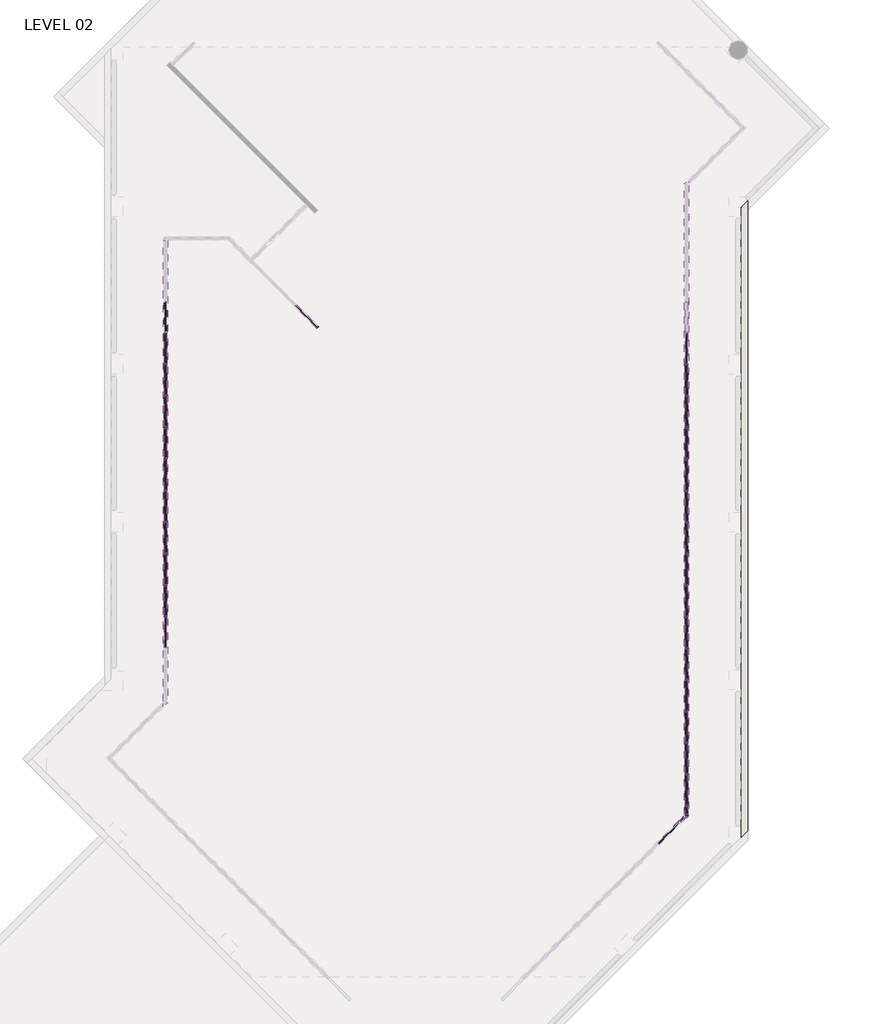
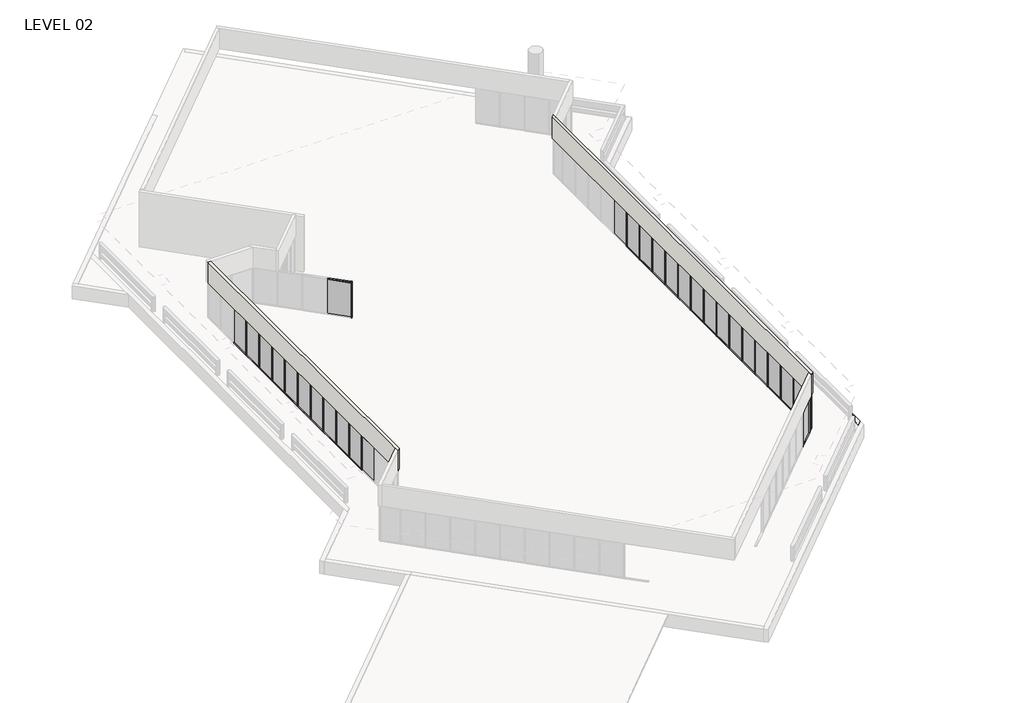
# One storey, part 11 of 19: 85 members, 30 plates, 3 walls.
"""IFC4 building model written with IfcOpenShell, lengths in millimetres."""

from ifc_helpers import new_model, si_unit, origin, place, context, project, spatial, faceted_brep, transform, mapped, element, save
from components import member_16770488, member_5247f267, member_e44af9ab, member_800970d4, member_1d3a199d, member_cca1f9e6, plate_67294edd, plate_8062c6fe, plate_53ca565f, plate_5a14c350

model = new_model("IFC4")

# Units and contexts
model_context = context("Model", 3, world=origin())
ifc_project = project(units=[si_unit("LENGTHUNIT", "METRE", prefix="MILLI")], contexts=[model_context])

# Site, building, storey
site = spatial("IfcSite", under=ifc_project)
building = spatial("IfcBuilding", under=site)
storey = spatial("IfcBuildingStorey", under=building, Name="LEVEL 02", Elevation=4140.2)

# Members
placement = place(None, origin())
member_shape = member_16770488(model_context)
element("IfcMember", 1, ObjectType="Rectangular Mullion : 2\" x 4.5\" rectangular", at=placement, inside=storey, context=model_context, shape_type="MappedRepresentation", body=[
    mapped(member_shape, transform((89445.0847164, 39591.9120859, 6731.0), x_axis=(0.0, 0.0, 1.0), y_axis=(-1.0, 0.0, 0.0), z_axis=(0.0, -1.0, 0.0))),
])
member_2_shape = member_5247f267(model_context)
element("IfcMember", 2, ObjectType="Rectangular Mullion : 2\" x 4.5\" rectangular", at=placement, inside=storey, context=model_context, shape_type="MappedRepresentation", body=[
    mapped(member_2_shape, transform((89445.0847164, 62877.3675885, 6731.0), x_axis=(0.0, 0.0, 1.0), y_axis=(-1.0, 0.0, 0.0), z_axis=(0.0, -1.0, 0.0))),
])
element("IfcMember", 3, ObjectType="Rectangular Mullion : 2\" x 4.5\" rectangular", at=placement, inside=storey, context=model_context, shape_type="MappedRepresentation", body=[
    mapped(member_2_shape, transform((89445.0847164, 61353.3675885, 6731.0), x_axis=(0.0, 0.0, 1.0), y_axis=(-1.0, 0.0, 0.0), z_axis=(0.0, -1.0, 0.0))),
])
element("IfcMember", 4, ObjectType="Rectangular Mullion : 2\" x 4.5\" rectangular", at=placement, inside=storey, context=model_context, shape_type="MappedRepresentation", body=[
    mapped(member_2_shape, transform((89445.0847164, 56781.3675885, 6731.0), x_axis=(0.0, 0.0, 1.0), y_axis=(-1.0, 0.0, 0.0), z_axis=(0.0, -1.0, 0.0))),
])
element("IfcMember", 5, ObjectType="Rectangular Mullion : 2\" x 4.5\" rectangular", at=placement, inside=storey, context=model_context, shape_type="MappedRepresentation", body=[
    mapped(member_2_shape, transform((89445.0847164, 55257.3675885, 6731.0), x_axis=(0.0, 0.0, 1.0), y_axis=(-1.0, 0.0, 0.0), z_axis=(0.0, -1.0, 0.0))),
])
element("IfcMember", 6, ObjectType="Rectangular Mullion : 2\" x 4.5\" rectangular", at=placement, inside=storey, context=model_context, shape_type="MappedRepresentation", body=[
    mapped(member_2_shape, transform((89445.0847164, 52209.3675885, 6731.0), x_axis=(0.0, 0.0, 1.0), y_axis=(-1.0, 0.0, 0.0), z_axis=(0.0, -1.0, 0.0))),
])
element("IfcMember", 7, ObjectType="Rectangular Mullion : 2\" x 4.5\" rectangular", at=placement, inside=storey, context=model_context, shape_type="MappedRepresentation", body=[
    mapped(member_2_shape, transform((89445.0847164, 49161.3675885, 6731.0), x_axis=(0.0, 0.0, 1.0), y_axis=(-1.0, 0.0, 0.0), z_axis=(0.0, -1.0, 0.0))),
])
element("IfcMember", 8, ObjectType="Rectangular Mullion : 2\" x 4.5\" rectangular", at=placement, inside=storey, context=model_context, shape_type="MappedRepresentation", body=[
    mapped(member_2_shape, transform((89445.0847164, 46113.3675885, 6731.0), x_axis=(0.0, 0.0, 1.0), y_axis=(-1.0, 0.0, 0.0), z_axis=(0.0, -1.0, 0.0))),
])
element("IfcMember", 9, ObjectType="Rectangular Mullion : 2\" x 4.5\" rectangular", at=placement, inside=storey, context=model_context, shape_type="MappedRepresentation", body=[
    mapped(member_2_shape, transform((89445.0847164, 41541.3675885, 6731.0), x_axis=(0.0, 0.0, 1.0), y_axis=(-1.0, 0.0, 0.0), z_axis=(0.0, -1.0, 0.0))),
])
element("IfcMember", 10, ObjectType="Rectangular Mullion : 2\" x 4.5\" rectangular", at=placement, inside=storey, context=model_context, shape_type="MappedRepresentation", body=[
    mapped(member_2_shape, transform((89445.0847164, 59829.3675885, 6731.0), x_axis=(0.0, 0.0, 1.0), y_axis=(-1.0, 0.0, 0.0), z_axis=(0.0, -1.0, 0.0))),
])
element("IfcMember", 11, ObjectType="Rectangular Mullion : 2\" x 4.5\" rectangular", at=placement, inside=storey, context=model_context, shape_type="MappedRepresentation", body=[
    mapped(member_2_shape, transform((89445.0847164, 58305.3675885, 6731.0), x_axis=(0.0, 0.0, 1.0), y_axis=(-1.0, 0.0, 0.0), z_axis=(0.0, -1.0, 0.0))),
])
element("IfcMember", 12, ObjectType="Rectangular Mullion : 2\" x 4.5\" rectangular", at=placement, inside=storey, context=model_context, shape_type="MappedRepresentation", body=[
    mapped(member_2_shape, transform((89445.0847164, 53733.3675885, 6731.0), x_axis=(0.0, 0.0, 1.0), y_axis=(-1.0, 0.0, 0.0), z_axis=(0.0, -1.0, 0.0))),
])
element("IfcMember", 13, ObjectType="Rectangular Mullion : 2\" x 4.5\" rectangular", at=placement, inside=storey, context=model_context, shape_type="MappedRepresentation", body=[
    mapped(member_2_shape, transform((89445.0847164, 50685.3675885, 6731.0), x_axis=(0.0, 0.0, 1.0), y_axis=(-1.0, 0.0, 0.0), z_axis=(0.0, -1.0, 0.0))),
])
element("IfcMember", 14, ObjectType="Rectangular Mullion : 2\" x 4.5\" rectangular", at=placement, inside=storey, context=model_context, shape_type="MappedRepresentation", body=[
    mapped(member_2_shape, transform((89445.0847164, 47637.3675885, 6731.0), x_axis=(0.0, 0.0, 1.0), y_axis=(-1.0, 0.0, 0.0), z_axis=(0.0, -1.0, 0.0))),
])
element("IfcMember", 15, ObjectType="Rectangular Mullion : 2\" x 4.5\" rectangular", at=placement, inside=storey, context=model_context, shape_type="MappedRepresentation", body=[
    mapped(member_2_shape, transform((89445.0847164, 44589.3675885, 6731.0), x_axis=(0.0, 0.0, 1.0), y_axis=(-1.0, 0.0, 0.0), z_axis=(0.0, -1.0, 0.0))),
])
element("IfcMember", 16, ObjectType="Rectangular Mullion : 2\" x 4.5\" rectangular", at=placement, inside=storey, context=model_context, shape_type="MappedRepresentation", body=[
    mapped(member_2_shape, transform((89445.0847164, 43065.3675885, 6731.0), x_axis=(0.0, 0.0, 1.0), y_axis=(-1.0, 0.0, 0.0), z_axis=(0.0, -1.0, 0.0))),
])
element("IfcMember", 17, ObjectType="Rectangular Mullion : 2\" x 4.5\" rectangular", at=placement, inside=storey, context=model_context, shape_type="MappedRepresentation", body=[
    mapped(member_2_shape, transform((89445.0847164, 40017.3675885, 6731.0), x_axis=(0.0, 0.0, 1.0), y_axis=(-1.0, 0.0, 0.0), z_axis=(0.0, -1.0, 0.0))),
])
element("IfcMember", 18, ObjectType="Rectangular Mullion : 2\" x 4.5\" rectangular", at=placement, inside=storey, context=model_context, shape_type="MappedRepresentation", body=[
    mapped(member_2_shape, transform((64254.6347164, 50634.5675885, 6731.0), x_axis=(0.0, 0.0, 1.0), y_axis=(1.0, 0.0, 0.0), z_axis=(0.0, 1.0, 0.0))),
])
element("IfcMember", 19, ObjectType="Rectangular Mullion : 2\" x 4.5\" rectangular", at=placement, inside=storey, context=model_context, shape_type="MappedRepresentation", body=[
    mapped(member_2_shape, transform((64254.6347164, 53682.5675885, 6731.0), x_axis=(0.0, 0.0, 1.0), y_axis=(1.0, 0.0, 0.0), z_axis=(0.0, 1.0, 0.0))),
])
element("IfcMember", 20, ObjectType="Rectangular Mullion : 2\" x 4.5\" rectangular", at=placement, inside=storey, context=model_context, shape_type="MappedRepresentation", body=[
    mapped(member_2_shape, transform((64254.6347164, 55206.5675885, 6731.0), x_axis=(0.0, 0.0, 1.0), y_axis=(1.0, 0.0, 0.0), z_axis=(0.0, 1.0, 0.0))),
])
element("IfcMember", 21, ObjectType="Rectangular Mullion : 2\" x 4.5\" rectangular", at=placement, inside=storey, context=model_context, shape_type="MappedRepresentation", body=[
    mapped(member_2_shape, transform((64254.6347164, 58254.5675885, 6731.0), x_axis=(0.0, 0.0, 1.0), y_axis=(1.0, 0.0, 0.0), z_axis=(0.0, 1.0, 0.0))),
])
element("IfcMember", 22, ObjectType="Rectangular Mullion : 2\" x 4.5\" rectangular", at=placement, inside=storey, context=model_context, shape_type="MappedRepresentation", body=[
    mapped(member_2_shape, transform((64254.6347164, 61302.5675885, 6731.0), x_axis=(0.0, 0.0, 1.0), y_axis=(1.0, 0.0, 0.0), z_axis=(0.0, 1.0, 0.0))),
])
element("IfcMember", 23, ObjectType="Rectangular Mullion : 2\" x 4.5\" rectangular", at=placement, inside=storey, context=model_context, shape_type="MappedRepresentation", body=[
    mapped(member_2_shape, transform((64254.6347164, 62826.5675885, 6731.0), x_axis=(0.0, 0.0, 1.0), y_axis=(1.0, 0.0, 0.0), z_axis=(0.0, 1.0, 0.0))),
])
element("IfcMember", 24, ObjectType="Rectangular Mullion : 2\" x 4.5\" rectangular", at=placement, inside=storey, context=model_context, shape_type="MappedRepresentation", body=[
    mapped(member_2_shape, transform((64254.6347164, 52158.5675885, 6731.0), x_axis=(0.0, 0.0, 1.0), y_axis=(1.0, 0.0, 0.0), z_axis=(0.0, 1.0, 0.0))),
])
element("IfcMember", 25, ObjectType="Rectangular Mullion : 2\" x 4.5\" rectangular", at=placement, inside=storey, context=model_context, shape_type="MappedRepresentation", body=[
    mapped(member_2_shape, transform((64254.6347164, 49110.5675885, 6731.0), x_axis=(0.0, 0.0, 1.0), y_axis=(1.0, 0.0, 0.0), z_axis=(0.0, 1.0, 0.0))),
])
element("IfcMember", 26, ObjectType="Rectangular Mullion : 2\" x 4.5\" rectangular", at=placement, inside=storey, context=model_context, shape_type="MappedRepresentation", body=[
    mapped(member_2_shape, transform((64254.6347164, 59778.5675885, 6731.0), x_axis=(0.0, 0.0, 1.0), y_axis=(1.0, 0.0, 0.0), z_axis=(0.0, 1.0, 0.0))),
])
element("IfcMember", 27, ObjectType="Rectangular Mullion : 2\" x 4.5\" rectangular", at=placement, inside=storey, context=model_context, shape_type="MappedRepresentation", body=[
    mapped(member_2_shape, transform((64254.6347164, 56730.5675885, 6731.0), x_axis=(0.0, 0.0, 1.0), y_axis=(1.0, 0.0, 0.0), z_axis=(0.0, 1.0, 0.0))),
])
element("IfcMember", 28, ObjectType="Rectangular Mullion : 2\" x 4.5\" rectangular", at=placement, inside=storey, context=model_context, shape_type="MappedRepresentation", body=[
    mapped(member_2_shape, transform((89445.0847164, 61302.5675885, 4140.2), x_axis=(0.0, 0.0, -1.0), y_axis=(-1.0, 0.0, 0.0), z_axis=(0.0, 1.0, 0.0))),
])
element("IfcMember", 29, ObjectType="Rectangular Mullion : 2\" x 4.5\" rectangular", at=placement, inside=storey, context=model_context, shape_type="MappedRepresentation", body=[
    mapped(member_2_shape, transform((89445.0847164, 56730.5675885, 4140.2), x_axis=(0.0, 0.0, -1.0), y_axis=(-1.0, 0.0, 0.0), z_axis=(0.0, 1.0, 0.0))),
])
element("IfcMember", 30, ObjectType="Rectangular Mullion : 2\" x 4.5\" rectangular", at=placement, inside=storey, context=model_context, shape_type="MappedRepresentation", body=[
    mapped(member_2_shape, transform((89445.0847164, 55206.5675885, 4140.2), x_axis=(0.0, 0.0, -1.0), y_axis=(-1.0, 0.0, 0.0), z_axis=(0.0, 1.0, 0.0))),
])
element("IfcMember", 31, ObjectType="Rectangular Mullion : 2\" x 4.5\" rectangular", at=placement, inside=storey, context=model_context, shape_type="MappedRepresentation", body=[
    mapped(member_2_shape, transform((89445.0847164, 52158.5675885, 4140.2), x_axis=(0.0, 0.0, -1.0), y_axis=(-1.0, 0.0, 0.0), z_axis=(0.0, 1.0, 0.0))),
])
element("IfcMember", 32, ObjectType="Rectangular Mullion : 2\" x 4.5\" rectangular", at=placement, inside=storey, context=model_context, shape_type="MappedRepresentation", body=[
    mapped(member_2_shape, transform((89445.0847164, 49110.5675885, 4140.2), x_axis=(0.0, 0.0, -1.0), y_axis=(-1.0, 0.0, 0.0), z_axis=(0.0, 1.0, 0.0))),
])
element("IfcMember", 33, ObjectType="Rectangular Mullion : 2\" x 4.5\" rectangular", at=placement, inside=storey, context=model_context, shape_type="MappedRepresentation", body=[
    mapped(member_2_shape, transform((89445.0847164, 46062.5675885, 4140.2), x_axis=(0.0, 0.0, -1.0), y_axis=(-1.0, 0.0, 0.0), z_axis=(0.0, 1.0, 0.0))),
])
element("IfcMember", 34, ObjectType="Rectangular Mullion : 2\" x 4.5\" rectangular", at=placement, inside=storey, context=model_context, shape_type="MappedRepresentation", body=[
    mapped(member_2_shape, transform((89445.0847164, 41490.5675885, 4140.2), x_axis=(0.0, 0.0, -1.0), y_axis=(-1.0, 0.0, 0.0), z_axis=(0.0, 1.0, 0.0))),
])
element("IfcMember", 35, ObjectType="Rectangular Mullion : 2\" x 4.5\" rectangular", at=placement, inside=storey, context=model_context, shape_type="MappedRepresentation", body=[
    mapped(member_2_shape, transform((89445.0847164, 59778.5675885, 4140.2), x_axis=(0.0, 0.0, -1.0), y_axis=(-1.0, 0.0, 0.0), z_axis=(0.0, 1.0, 0.0))),
])
element("IfcMember", 36, ObjectType="Rectangular Mullion : 2\" x 4.5\" rectangular", at=placement, inside=storey, context=model_context, shape_type="MappedRepresentation", body=[
    mapped(member_2_shape, transform((89445.0847164, 58254.5675885, 4140.2), x_axis=(0.0, 0.0, -1.0), y_axis=(-1.0, 0.0, 0.0), z_axis=(0.0, 1.0, 0.0))),
])
element("IfcMember", 37, ObjectType="Rectangular Mullion : 2\" x 4.5\" rectangular", at=placement, inside=storey, context=model_context, shape_type="MappedRepresentation", body=[
    mapped(member_2_shape, transform((89445.0847164, 53682.5675885, 4140.2), x_axis=(0.0, 0.0, -1.0), y_axis=(-1.0, 0.0, 0.0), z_axis=(0.0, 1.0, 0.0))),
])
element("IfcMember", 38, ObjectType="Rectangular Mullion : 2\" x 4.5\" rectangular", at=placement, inside=storey, context=model_context, shape_type="MappedRepresentation", body=[
    mapped(member_2_shape, transform((89445.0847164, 50634.5675885, 4140.2), x_axis=(0.0, 0.0, -1.0), y_axis=(-1.0, 0.0, 0.0), z_axis=(0.0, 1.0, 0.0))),
])
element("IfcMember", 39, ObjectType="Rectangular Mullion : 2\" x 4.5\" rectangular", at=placement, inside=storey, context=model_context, shape_type="MappedRepresentation", body=[
    mapped(member_2_shape, transform((89445.0847164, 47586.5675885, 4140.2), x_axis=(0.0, 0.0, -1.0), y_axis=(-1.0, 0.0, 0.0), z_axis=(0.0, 1.0, 0.0))),
])
element("IfcMember", 40, ObjectType="Rectangular Mullion : 2\" x 4.5\" rectangular", at=placement, inside=storey, context=model_context, shape_type="MappedRepresentation", body=[
    mapped(member_2_shape, transform((89445.0847164, 44538.5675885, 4140.2), x_axis=(0.0, 0.0, -1.0), y_axis=(-1.0, 0.0, 0.0), z_axis=(0.0, 1.0, 0.0))),
])
element("IfcMember", 41, ObjectType="Rectangular Mullion : 2\" x 4.5\" rectangular", at=placement, inside=storey, context=model_context, shape_type="MappedRepresentation", body=[
    mapped(member_2_shape, transform((89445.0847164, 43014.5675885, 4140.2), x_axis=(0.0, 0.0, -1.0), y_axis=(-1.0, 0.0, 0.0), z_axis=(0.0, 1.0, 0.0))),
])
element("IfcMember", 42, ObjectType="Rectangular Mullion : 2\" x 4.5\" rectangular", at=placement, inside=storey, context=model_context, shape_type="MappedRepresentation", body=[
    mapped(member_2_shape, transform((89108.4998936, 39204.5272631, 4140.2), x_axis=(0.0, 0.0, -1.0), y_axis=(-0.7071067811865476, 0.7071067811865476, 0.0), z_axis=(0.7071067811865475, 0.7071067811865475, 0.0))),
])
element("IfcMember", 43, ObjectType="Rectangular Mullion : 2\" x 4.5\" rectangular", at=placement, inside=storey, context=model_context, shape_type="MappedRepresentation", body=[
    mapped(member_2_shape, transform((64254.6347164, 50685.3675885, 4140.2), x_axis=(0.0, 0.0, -1.0), y_axis=(1.0, 0.0, 0.0), z_axis=(0.0, -1.0, 0.0))),
])
element("IfcMember", 44, ObjectType="Rectangular Mullion : 2\" x 4.5\" rectangular", at=placement, inside=storey, context=model_context, shape_type="MappedRepresentation", body=[
    mapped(member_2_shape, transform((64254.6347164, 53733.3675885, 4140.2), x_axis=(0.0, 0.0, -1.0), y_axis=(1.0, 0.0, 0.0), z_axis=(0.0, -1.0, 0.0))),
])
element("IfcMember", 45, ObjectType="Rectangular Mullion : 2\" x 4.5\" rectangular", at=placement, inside=storey, context=model_context, shape_type="MappedRepresentation", body=[
    mapped(member_2_shape, transform((64254.6347164, 55257.3675885, 4140.2), x_axis=(0.0, 0.0, -1.0), y_axis=(1.0, 0.0, 0.0), z_axis=(0.0, -1.0, 0.0))),
])
element("IfcMember", 46, ObjectType="Rectangular Mullion : 2\" x 4.5\" rectangular", at=placement, inside=storey, context=model_context, shape_type="MappedRepresentation", body=[
    mapped(member_2_shape, transform((64254.6347164, 58305.3675885, 4140.2), x_axis=(0.0, 0.0, -1.0), y_axis=(1.0, 0.0, 0.0), z_axis=(0.0, -1.0, 0.0))),
])
element("IfcMember", 47, ObjectType="Rectangular Mullion : 2\" x 4.5\" rectangular", at=placement, inside=storey, context=model_context, shape_type="MappedRepresentation", body=[
    mapped(member_2_shape, transform((64254.6347164, 61353.3675885, 4140.2), x_axis=(0.0, 0.0, -1.0), y_axis=(1.0, 0.0, 0.0), z_axis=(0.0, -1.0, 0.0))),
])
element("IfcMember", 48, ObjectType="Rectangular Mullion : 2\" x 4.5\" rectangular", at=placement, inside=storey, context=model_context, shape_type="MappedRepresentation", body=[
    mapped(member_2_shape, transform((64254.6347164, 62877.3675885, 4140.2), x_axis=(0.0, 0.0, -1.0), y_axis=(1.0, 0.0, 0.0), z_axis=(0.0, -1.0, 0.0))),
])
element("IfcMember", 49, ObjectType="Rectangular Mullion : 2\" x 4.5\" rectangular", at=placement, inside=storey, context=model_context, shape_type="MappedRepresentation", body=[
    mapped(member_2_shape, transform((64254.6347164, 52209.3675885, 4140.2), x_axis=(0.0, 0.0, -1.0), y_axis=(1.0, 0.0, 0.0), z_axis=(0.0, -1.0, 0.0))),
])
element("IfcMember", 50, ObjectType="Rectangular Mullion : 2\" x 4.5\" rectangular", at=placement, inside=storey, context=model_context, shape_type="MappedRepresentation", body=[
    mapped(member_2_shape, transform((64254.6347164, 49161.3675885, 4140.2), x_axis=(0.0, 0.0, -1.0), y_axis=(1.0, 0.0, 0.0), z_axis=(0.0, -1.0, 0.0))),
])
element("IfcMember", 51, ObjectType="Rectangular Mullion : 2\" x 4.5\" rectangular", at=placement, inside=storey, context=model_context, shape_type="MappedRepresentation", body=[
    mapped(member_2_shape, transform((64254.6347164, 59829.3675885, 4140.2), x_axis=(0.0, 0.0, -1.0), y_axis=(1.0, 0.0, 0.0), z_axis=(0.0, -1.0, 0.0))),
])
element("IfcMember", 52, ObjectType="Rectangular Mullion : 2\" x 4.5\" rectangular", at=placement, inside=storey, context=model_context, shape_type="MappedRepresentation", body=[
    mapped(member_2_shape, transform((64254.6347164, 56781.3675885, 4140.2), x_axis=(0.0, 0.0, -1.0), y_axis=(1.0, 0.0, 0.0), z_axis=(0.0, -1.0, 0.0))),
])
member_3_shape = member_e44af9ab(model_context)
element("IfcMember", 53, ObjectType="Rectangular Mullion : 2\" x 4.5\" rectangular", at=placement, inside=storey, context=model_context, shape_type="MappedRepresentation", body=[
    mapped(member_3_shape, transform((89445.0847164, 61327.9675885, 4140.2), x_axis=(0.0, -1.0, 0.0), y_axis=(-1.0, 0.0, 0.0), z_axis=(0.0, 0.0, -1.0))),
])
element("IfcMember", 54, ObjectType="Rectangular Mullion : 2\" x 4.5\" rectangular", at=placement, inside=storey, context=model_context, shape_type="MappedRepresentation", body=[
    mapped(member_3_shape, transform((89445.0847164, 56755.9675885, 4140.2), x_axis=(0.0, -1.0, 0.0), y_axis=(-1.0, 0.0, 0.0), z_axis=(0.0, 0.0, -1.0))),
])
element("IfcMember", 55, ObjectType="Rectangular Mullion : 2\" x 4.5\" rectangular", at=placement, inside=storey, context=model_context, shape_type="MappedRepresentation", body=[
    mapped(member_3_shape, transform((89445.0847164, 55231.9675885, 4140.2), x_axis=(0.0, -1.0, 0.0), y_axis=(-1.0, 0.0, 0.0), z_axis=(0.0, 0.0, -1.0))),
])
element("IfcMember", 56, ObjectType="Rectangular Mullion : 2\" x 4.5\" rectangular", at=placement, inside=storey, context=model_context, shape_type="MappedRepresentation", body=[
    mapped(member_3_shape, transform((89445.0847164, 52183.9675885, 4140.2), x_axis=(0.0, -1.0, 0.0), y_axis=(-1.0, 0.0, 0.0), z_axis=(0.0, 0.0, -1.0))),
])
element("IfcMember", 57, ObjectType="Rectangular Mullion : 2\" x 4.5\" rectangular", at=placement, inside=storey, context=model_context, shape_type="MappedRepresentation", body=[
    mapped(member_3_shape, transform((89445.0847164, 49135.9675885, 4140.2), x_axis=(0.0, -1.0, 0.0), y_axis=(-1.0, 0.0, 0.0), z_axis=(0.0, 0.0, -1.0))),
])
element("IfcMember", 58, ObjectType="Rectangular Mullion : 2\" x 4.5\" rectangular", at=placement, inside=storey, context=model_context, shape_type="MappedRepresentation", body=[
    mapped(member_3_shape, transform((89445.0847164, 46087.9675885, 4140.2), x_axis=(0.0, -1.0, 0.0), y_axis=(-1.0, 0.0, 0.0), z_axis=(0.0, 0.0, -1.0))),
])
element("IfcMember", 59, ObjectType="Rectangular Mullion : 2\" x 4.5\" rectangular", at=placement, inside=storey, context=model_context, shape_type="MappedRepresentation", body=[
    mapped(member_3_shape, transform((89445.0847164, 44563.9675885, 4140.2), x_axis=(0.0, -1.0, 0.0), y_axis=(-1.0, 0.0, 0.0), z_axis=(0.0, 0.0, -1.0))),
])
element("IfcMember", 60, ObjectType="Rectangular Mullion : 2\" x 4.5\" rectangular", at=placement, inside=storey, context=model_context, shape_type="MappedRepresentation", body=[
    mapped(member_3_shape, transform((89445.0847164, 41515.9675885, 4140.2), x_axis=(0.0, -1.0, 0.0), y_axis=(-1.0, 0.0, 0.0), z_axis=(0.0, 0.0, -1.0))),
])
element("IfcMember", 61, ObjectType="Rectangular Mullion : 2\" x 4.5\" rectangular", at=placement, inside=storey, context=model_context, shape_type="MappedRepresentation", body=[
    mapped(member_3_shape, transform((89445.0847164, 59803.9675885, 4140.2), x_axis=(0.0, -1.0, 0.0), y_axis=(-1.0, 0.0, 0.0), z_axis=(0.0, 0.0, -1.0))),
])
element("IfcMember", 62, ObjectType="Rectangular Mullion : 2\" x 4.5\" rectangular", at=placement, inside=storey, context=model_context, shape_type="MappedRepresentation", body=[
    mapped(member_3_shape, transform((89445.0847164, 58279.9675885, 4140.2), x_axis=(0.0, -1.0, 0.0), y_axis=(-1.0, 0.0, 0.0), z_axis=(0.0, 0.0, -1.0))),
])
element("IfcMember", 63, ObjectType="Rectangular Mullion : 2\" x 4.5\" rectangular", at=placement, inside=storey, context=model_context, shape_type="MappedRepresentation", body=[
    mapped(member_3_shape, transform((89445.0847164, 53707.9675885, 4140.2), x_axis=(0.0, -1.0, 0.0), y_axis=(-1.0, 0.0, 0.0), z_axis=(0.0, 0.0, -1.0))),
])
element("IfcMember", 64, ObjectType="Rectangular Mullion : 2\" x 4.5\" rectangular", at=placement, inside=storey, context=model_context, shape_type="MappedRepresentation", body=[
    mapped(member_3_shape, transform((89445.0847164, 50659.9675885, 4140.2), x_axis=(0.0, -1.0, 0.0), y_axis=(-1.0, 0.0, 0.0), z_axis=(0.0, 0.0, -1.0))),
])
element("IfcMember", 65, ObjectType="Rectangular Mullion : 2\" x 4.5\" rectangular", at=placement, inside=storey, context=model_context, shape_type="MappedRepresentation", body=[
    mapped(member_3_shape, transform((89445.0847164, 47611.9675885, 4140.2), x_axis=(0.0, -1.0, 0.0), y_axis=(-1.0, 0.0, 0.0), z_axis=(0.0, 0.0, -1.0))),
])
element("IfcMember", 66, ObjectType="Rectangular Mullion : 2\" x 4.5\" rectangular", at=placement, inside=storey, context=model_context, shape_type="MappedRepresentation", body=[
    mapped(member_3_shape, transform((89445.0847164, 43039.9675885, 4140.2), x_axis=(0.0, -1.0, 0.0), y_axis=(-1.0, 0.0, 0.0), z_axis=(0.0, 0.0, -1.0))),
])
element("IfcMember", 67, ObjectType="Rectangular Mullion : 2\" x 4.5\" rectangular", at=placement, inside=storey, context=model_context, shape_type="MappedRepresentation", body=[
    mapped(member_3_shape, transform((89445.0847164, 39991.9675885, 4140.2), x_axis=(0.0, -1.0, 0.0), y_axis=(-1.0, 0.0, 0.0), z_axis=(0.0, 0.0, -1.0))),
])
element("IfcMember", 68, ObjectType="Rectangular Mullion : 2\" x 4.5\" rectangular", at=placement, inside=storey, context=model_context, shape_type="MappedRepresentation", body=[
    mapped(member_3_shape, transform((89126.4604058, 39222.4877753, 4140.2), x_axis=(-0.7071067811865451, -0.7071067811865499, 0.0), y_axis=(-0.7071067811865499, 0.7071067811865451, 0.0), z_axis=(0.0, 0.0, -1.0))),
])
element("IfcMember", 69, ObjectType="Rectangular Mullion : 2\" x 4.5\" rectangular", at=placement, inside=storey, context=model_context, shape_type="MappedRepresentation", body=[
    mapped(member_3_shape, transform((64254.6347164, 50659.9675885, 4140.2), x_axis=(0.0, 1.0, 0.0), y_axis=(1.0, 0.0, 0.0), z_axis=(0.0, 0.0, -1.0))),
])
element("IfcMember", 70, ObjectType="Rectangular Mullion : 2\" x 4.5\" rectangular", at=placement, inside=storey, context=model_context, shape_type="MappedRepresentation", body=[
    mapped(member_3_shape, transform((64254.6347164, 53707.9675885, 4140.2), x_axis=(0.0, 1.0, 0.0), y_axis=(1.0, 0.0, 0.0), z_axis=(0.0, 0.0, -1.0))),
])
element("IfcMember", 71, ObjectType="Rectangular Mullion : 2\" x 4.5\" rectangular", at=placement, inside=storey, context=model_context, shape_type="MappedRepresentation", body=[
    mapped(member_3_shape, transform((64254.6347164, 55231.9675885, 4140.2), x_axis=(0.0, 1.0, 0.0), y_axis=(1.0, 0.0, 0.0), z_axis=(0.0, 0.0, -1.0))),
])
element("IfcMember", 72, ObjectType="Rectangular Mullion : 2\" x 4.5\" rectangular", at=placement, inside=storey, context=model_context, shape_type="MappedRepresentation", body=[
    mapped(member_3_shape, transform((64254.6347164, 58279.9675885, 4140.2), x_axis=(0.0, 1.0, 0.0), y_axis=(1.0, 0.0, 0.0), z_axis=(0.0, 0.0, -1.0))),
])
element("IfcMember", 73, ObjectType="Rectangular Mullion : 2\" x 4.5\" rectangular", at=placement, inside=storey, context=model_context, shape_type="MappedRepresentation", body=[
    mapped(member_3_shape, transform((64254.6347164, 61327.9675885, 4140.2), x_axis=(0.0, 1.0, 0.0), y_axis=(1.0, 0.0, 0.0), z_axis=(0.0, 0.0, -1.0))),
])
element("IfcMember", 74, ObjectType="Rectangular Mullion : 2\" x 4.5\" rectangular", at=placement, inside=storey, context=model_context, shape_type="MappedRepresentation", body=[
    mapped(member_3_shape, transform((64254.6347164, 62851.9675885, 4140.2), x_axis=(0.0, 1.0, 0.0), y_axis=(1.0, 0.0, 0.0), z_axis=(0.0, 0.0, -1.0))),
])
element("IfcMember", 75, ObjectType="Rectangular Mullion : 2\" x 4.5\" rectangular", at=placement, inside=storey, context=model_context, shape_type="MappedRepresentation", body=[
    mapped(member_3_shape, transform((64254.6347164, 52183.9675885, 4140.2), x_axis=(0.0, 1.0, 0.0), y_axis=(1.0, 0.0, 0.0), z_axis=(0.0, 0.0, -1.0))),
])
element("IfcMember", 76, ObjectType="Rectangular Mullion : 2\" x 4.5\" rectangular", at=placement, inside=storey, context=model_context, shape_type="MappedRepresentation", body=[
    mapped(member_3_shape, transform((64254.6347164, 49135.9675885, 4140.2), x_axis=(0.0, 1.0, 0.0), y_axis=(1.0, 0.0, 0.0), z_axis=(0.0, 0.0, -1.0))),
])
element("IfcMember", 77, ObjectType="Rectangular Mullion : 2\" x 4.5\" rectangular", at=placement, inside=storey, context=model_context, shape_type="MappedRepresentation", body=[
    mapped(member_3_shape, transform((64254.6347164, 59803.9675885, 4140.2), x_axis=(0.0, 1.0, 0.0), y_axis=(1.0, 0.0, 0.0), z_axis=(0.0, 0.0, -1.0))),
])
element("IfcMember", 78, ObjectType="Rectangular Mullion : 2\" x 4.5\" rectangular", at=placement, inside=storey, context=model_context, shape_type="MappedRepresentation", body=[
    mapped(member_3_shape, transform((64254.6347164, 56755.9675885, 4140.2), x_axis=(0.0, 1.0, 0.0), y_axis=(1.0, 0.0, 0.0), z_axis=(0.0, 0.0, -1.0))),
])
element("IfcMember", 79, ObjectType="Rectangular Mullion : 2\" x 4.5\" rectangular", at=placement, inside=storey, context=model_context, shape_type="MappedRepresentation", body=[
    mapped(member_shape, transform((89445.0847164, 39966.5675885, 4140.2), x_axis=(0.0, 0.0, -1.0), y_axis=(-1.0, 0.0, 0.0), z_axis=(0.0, 1.0, 0.0))),
])
member_4_shape = member_800970d4(model_context)
element("IfcMember", 80, ObjectType="Rectangular Mullion : 2\" x 4.5\" rectangular", at=placement, inside=storey, context=model_context, shape_type="MappedRepresentation", body=[
    mapped(member_4_shape, transform((89445.0847164, 39541.1120859, 4140.2), x_axis=(0.0, -1.0, 0.0), y_axis=(-1.0, 0.0, 0.0), z_axis=(0.0, 0.0, -1.0))),
])
element("IfcMember", 81, ObjectType="Rectangular Mullion : 2\" x 4.5\" rectangular", at=placement, inside=storey, context=model_context, shape_type="MappedRepresentation", body=[
    mapped(member_4_shape, transform((71613.1576545, 63113.4446504, 4140.2), x_axis=(0.7071067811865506, -0.7071067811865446, 0.0), y_axis=(-0.7071067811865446, -0.7071067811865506, 0.0), z_axis=(0.0, 0.0, -1.0))),
])
element("IfcMember", 82, ObjectType="Rectangular Mullion : 2\" x 4.5\" rectangular", at=placement, inside=storey, context=model_context, shape_type="MappedRepresentation", body=[
    mapped(member_4_shape, transform((89445.0847164, 39541.1120859, 6731.0), x_axis=(0.7071067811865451, 0.7071067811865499, 0.0), y_axis=(-0.7071067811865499, 0.7071067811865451, 0.0), z_axis=(0.0, 0.0, 1.0))),
])
member_5_shape = member_1d3a199d(model_context)
element("IfcMember", 83, ObjectType="Rectangular Mullion : 2\" x 4.5\" rectangular", at=placement, inside=storey, context=model_context, shape_type="MappedRepresentation", body=[
    mapped(member_5_shape, transform((89409.1636919, 39505.1910614, 4140.2), x_axis=(0.0, 0.0, -1.0), y_axis=(-0.7071067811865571, 0.7071067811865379, 0.0), z_axis=(0.7071067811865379, 0.7071067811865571, 0.0))),
])
element("IfcMember", 84, ObjectType="Rectangular Mullion : 2\" x 4.5\" rectangular", at=placement, inside=storey, context=model_context, shape_type="MappedRepresentation", body=[
    mapped(member_5_shape, transform((89144.4209181, 39240.4482876, 6731.0), x_axis=(0.0, 0.0, 1.0), y_axis=(-0.7071067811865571, 0.7071067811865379, 0.0), z_axis=(-0.7071067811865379, -0.7071067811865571, 0.0))),
])
member_6_shape = member_cca1f9e6(model_context)
element("IfcMember", 85, ObjectType="Rectangular Mullion : 2\" x 4.5\" rectangular", at=placement, inside=storey, context=model_context, shape_type="MappedRepresentation", body=[
    mapped(member_6_shape, transform((71577.23663, 63149.3656749, 6731.0), x_axis=(0.0, 0.0, 1.0), y_axis=(-0.7071067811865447, -0.7071067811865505, 0.0), z_axis=(0.7071067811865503, -0.7071067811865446, 0.0))),
])

# Plates
plate_shape = plate_67294edd(model_context)
element("IfcPlate", 86, ObjectType="System Panel : 1/4\" Glass", at=placement, inside=storey, context=model_context, shape_type="MappedRepresentation", body=[
    mapped(plate_shape, transform((89445.0847164, 62089.9675885, 4191.0), x_axis=(0.0, -1.0, 0.0), y_axis=(1.0, 0.0, 0.0), z_axis=(0.0, 0.0, 1.0))),
])
element("IfcPlate", 87, ObjectType="System Panel : 1/4\" Glass", at=placement, inside=storey, context=model_context, shape_type="MappedRepresentation", body=[
    mapped(plate_shape, transform((89445.0847164, 60565.9675885, 4191.0), x_axis=(0.0, -1.0, 0.0), y_axis=(1.0, 0.0, 0.0), z_axis=(0.0, 0.0, 1.0))),
])
element("IfcPlate", 88, ObjectType="System Panel : 1/4\" Glass", at=placement, inside=storey, context=model_context, shape_type="MappedRepresentation", body=[
    mapped(plate_shape, transform((89445.0847164, 55993.9675885, 4191.0), x_axis=(0.0, -1.0, 0.0), y_axis=(1.0, 0.0, 0.0), z_axis=(0.0, 0.0, 1.0))),
])
element("IfcPlate", 89, ObjectType="System Panel : 1/4\" Glass", at=placement, inside=storey, context=model_context, shape_type="MappedRepresentation", body=[
    mapped(plate_shape, transform((89445.0847164, 54469.9675885, 4191.0), x_axis=(0.0, -1.0, 0.0), y_axis=(1.0, 0.0, 0.0), z_axis=(0.0, 0.0, 1.0))),
])
element("IfcPlate", 90, ObjectType="System Panel : 1/4\" Glass", at=placement, inside=storey, context=model_context, shape_type="MappedRepresentation", body=[
    mapped(plate_shape, transform((89445.0847164, 51421.9675885, 4191.0), x_axis=(0.0, -1.0, 0.0), y_axis=(1.0, 0.0, 0.0), z_axis=(0.0, 0.0, 1.0))),
])
element("IfcPlate", 91, ObjectType="System Panel : 1/4\" Glass", at=placement, inside=storey, context=model_context, shape_type="MappedRepresentation", body=[
    mapped(plate_shape, transform((89445.0847164, 48373.9675885, 4191.0), x_axis=(0.0, -1.0, 0.0), y_axis=(1.0, 0.0, 0.0), z_axis=(0.0, 0.0, 1.0))),
])
element("IfcPlate", 92, ObjectType="System Panel : 1/4\" Glass", at=placement, inside=storey, context=model_context, shape_type="MappedRepresentation", body=[
    mapped(plate_shape, transform((89445.0847164, 45325.9675885, 4191.0), x_axis=(0.0, -1.0, 0.0), y_axis=(1.0, 0.0, 0.0), z_axis=(0.0, 0.0, 1.0))),
])
element("IfcPlate", 93, ObjectType="System Panel : 1/4\" Glass", at=placement, inside=storey, context=model_context, shape_type="MappedRepresentation", body=[
    mapped(plate_shape, transform((89445.0847164, 43801.9675885, 4191.0), x_axis=(0.0, -1.0, 0.0), y_axis=(1.0, 0.0, 0.0), z_axis=(0.0, 0.0, 1.0))),
])
element("IfcPlate", 94, ObjectType="System Panel : 1/4\" Glass", at=placement, inside=storey, context=model_context, shape_type="MappedRepresentation", body=[
    mapped(plate_shape, transform((89445.0847164, 40753.9675885, 4191.0), x_axis=(0.0, -1.0, 0.0), y_axis=(1.0, 0.0, 0.0), z_axis=(0.0, 0.0, 1.0))),
])
element("IfcPlate", 95, ObjectType="System Panel : 1/4\" Glass", at=placement, inside=storey, context=model_context, shape_type="MappedRepresentation", body=[
    mapped(plate_shape, transform((89445.0847164, 59041.9675885, 4191.0), x_axis=(0.0, -1.0, 0.0), y_axis=(1.0, 0.0, 0.0), z_axis=(0.0, 0.0, 1.0))),
])
element("IfcPlate", 96, ObjectType="System Panel : 1/4\" Glass", at=placement, inside=storey, context=model_context, shape_type="MappedRepresentation", body=[
    mapped(plate_shape, transform((89445.0847164, 57517.9675885, 4191.0), x_axis=(0.0, -1.0, 0.0), y_axis=(1.0, 0.0, 0.0), z_axis=(0.0, 0.0, 1.0))),
])
element("IfcPlate", 97, ObjectType="System Panel : 1/4\" Glass", at=placement, inside=storey, context=model_context, shape_type="MappedRepresentation", body=[
    mapped(plate_shape, transform((89445.0847164, 52945.9675885, 4191.0), x_axis=(0.0, -1.0, 0.0), y_axis=(1.0, 0.0, 0.0), z_axis=(0.0, 0.0, 1.0))),
])
element("IfcPlate", 98, ObjectType="System Panel : 1/4\" Glass", at=placement, inside=storey, context=model_context, shape_type="MappedRepresentation", body=[
    mapped(plate_shape, transform((89445.0847164, 49897.9675885, 4191.0), x_axis=(0.0, -1.0, 0.0), y_axis=(1.0, 0.0, 0.0), z_axis=(0.0, 0.0, 1.0))),
])
element("IfcPlate", 99, ObjectType="System Panel : 1/4\" Glass", at=placement, inside=storey, context=model_context, shape_type="MappedRepresentation", body=[
    mapped(plate_shape, transform((89445.0847164, 46849.9675885, 4191.0), x_axis=(0.0, -1.0, 0.0), y_axis=(1.0, 0.0, 0.0), z_axis=(0.0, 0.0, 1.0))),
])
element("IfcPlate", 100, ObjectType="System Panel : 1/4\" Glass", at=placement, inside=storey, context=model_context, shape_type="MappedRepresentation", body=[
    mapped(plate_shape, transform((89445.0847164, 42277.9675885, 4191.0), x_axis=(0.0, -1.0, 0.0), y_axis=(1.0, 0.0, 0.0), z_axis=(0.0, 0.0, 1.0))),
])
element("IfcPlate", 101, ObjectType="System Panel : 1/4\" Glass", at=placement, inside=storey, context=model_context, shape_type="MappedRepresentation", body=[
    mapped(plate_shape, transform((88587.6450386, 38683.6724081, 4191.0), x_axis=(-0.7071067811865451, -0.7071067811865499, 0.0), y_axis=(0.7071067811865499, -0.7071067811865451, 0.0), z_axis=(0.0, 0.0, 1.0))),
])
element("IfcPlate", 102, ObjectType="System Panel : 1/4\" Glass", at=placement, inside=storey, context=model_context, shape_type="MappedRepresentation", body=[
    mapped(plate_shape, transform((64254.6347164, 51421.9675885, 4191.0), x_axis=(0.0, 1.0, 0.0), y_axis=(-1.0, 0.0, 0.0), z_axis=(0.0, 0.0, 1.0))),
])
element("IfcPlate", 103, ObjectType="System Panel : 1/4\" Glass", at=placement, inside=storey, context=model_context, shape_type="MappedRepresentation", body=[
    mapped(plate_shape, transform((64254.6347164, 54469.9675885, 4191.0), x_axis=(0.0, 1.0, 0.0), y_axis=(-1.0, 0.0, 0.0), z_axis=(0.0, 0.0, 1.0))),
])
element("IfcPlate", 104, ObjectType="System Panel : 1/4\" Glass", at=placement, inside=storey, context=model_context, shape_type="MappedRepresentation", body=[
    mapped(plate_shape, transform((64254.6347164, 55993.9675885, 4191.0), x_axis=(0.0, 1.0, 0.0), y_axis=(-1.0, 0.0, 0.0), z_axis=(0.0, 0.0, 1.0))),
])
element("IfcPlate", 105, ObjectType="System Panel : 1/4\" Glass", at=placement, inside=storey, context=model_context, shape_type="MappedRepresentation", body=[
    mapped(plate_shape, transform((64254.6347164, 59041.9675885, 4191.0), x_axis=(0.0, 1.0, 0.0), y_axis=(-1.0, 0.0, 0.0), z_axis=(0.0, 0.0, 1.0))),
])
element("IfcPlate", 106, ObjectType="System Panel : 1/4\" Glass", at=placement, inside=storey, context=model_context, shape_type="MappedRepresentation", body=[
    mapped(plate_shape, transform((64254.6347164, 62089.9675885, 4191.0), x_axis=(0.0, 1.0, 0.0), y_axis=(-1.0, 0.0, 0.0), z_axis=(0.0, 0.0, 1.0))),
])
element("IfcPlate", 107, ObjectType="System Panel : 1/4\" Glass", at=placement, inside=storey, context=model_context, shape_type="MappedRepresentation", body=[
    mapped(plate_shape, transform((64254.6347164, 63613.9675885, 4191.0), x_axis=(0.0, 1.0, 0.0), y_axis=(-1.0, 0.0, 0.0), z_axis=(0.0, 0.0, 1.0))),
])
element("IfcPlate", 108, ObjectType="System Panel : 1/4\" Glass", at=placement, inside=storey, context=model_context, shape_type="MappedRepresentation", body=[
    mapped(plate_shape, transform((64254.6347164, 52945.9675885, 4191.0), x_axis=(0.0, 1.0, 0.0), y_axis=(-1.0, 0.0, 0.0), z_axis=(0.0, 0.0, 1.0))),
])
element("IfcPlate", 109, ObjectType="System Panel : 1/4\" Glass", at=placement, inside=storey, context=model_context, shape_type="MappedRepresentation", body=[
    mapped(plate_shape, transform((64254.6347164, 49897.9675885, 4191.0), x_axis=(0.0, 1.0, 0.0), y_axis=(-1.0, 0.0, 0.0), z_axis=(0.0, 0.0, 1.0))),
])
element("IfcPlate", 110, ObjectType="System Panel : 1/4\" Glass", at=placement, inside=storey, context=model_context, shape_type="MappedRepresentation", body=[
    mapped(plate_shape, transform((64254.6347164, 48373.9675885, 4191.0), x_axis=(0.0, 1.0, 0.0), y_axis=(-1.0, 0.0, 0.0), z_axis=(0.0, 0.0, 1.0))),
])
element("IfcPlate", 111, ObjectType="System Panel : 1/4\" Glass", at=placement, inside=storey, context=model_context, shape_type="MappedRepresentation", body=[
    mapped(plate_shape, transform((64254.6347164, 60565.9675885, 4191.0), x_axis=(0.0, 1.0, 0.0), y_axis=(-1.0, 0.0, 0.0), z_axis=(0.0, 0.0, 1.0))),
])
element("IfcPlate", 112, ObjectType="System Panel : 1/4\" Glass", at=placement, inside=storey, context=model_context, shape_type="MappedRepresentation", body=[
    mapped(plate_shape, transform((64254.6347164, 57517.9675885, 4191.0), x_axis=(0.0, 1.0, 0.0), y_axis=(-1.0, 0.0, 0.0), z_axis=(0.0, 0.0, 1.0))),
])
plate_2_shape = plate_8062c6fe(model_context)
element("IfcPlate", 113, ObjectType="System Panel : 1/4\" Glass", at=placement, inside=storey, context=model_context, shape_type="MappedRepresentation", body=[
    mapped(plate_2_shape, transform((89276.792305, 39372.8196745, 4191.0), x_axis=(-0.7071067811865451, -0.7071067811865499, 0.0), y_axis=(0.7071067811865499, -0.7071067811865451, 0.0), z_axis=(0.0, 0.0, 1.0))),
])
plate_3_shape = plate_53ca565f(model_context)
element("IfcPlate", 114, ObjectType="System Panel : 1/4\" Glass", at=placement, inside=storey, context=model_context, shape_type="MappedRepresentation", body=[
    mapped(plate_3_shape, transform((89445.0847164, 39779.2398372, 4191.0), x_axis=(0.0, -1.0, 0.0), y_axis=(1.0, 0.0, 0.0), z_axis=(0.0, 0.0, 1.0))),
])
plate_4_shape = plate_5a14c350(model_context)
element("IfcPlate", 115, ObjectType="System Panel : 1/4\" Glass", at=placement, inside=storey, context=model_context, shape_type="MappedRepresentation", body=[
    mapped(plate_4_shape, transform((71065.3620311, 63661.2402738, 4191.0), x_axis=(0.7071067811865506, -0.7071067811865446, 0.0), y_axis=(0.7071067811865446, 0.7071067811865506, 0.0), z_axis=(0.0, 0.0, 1.0))),
])

# Walls
element("IfcWall", 116, ObjectType="01-CONCRETE-12", at=placement, inside=storey, context=model_context, shape_type="Brep", body=[
    faceted_brep([(92391.4847164, 38751.7255396, 3225.8), (92391.4847164, 68800.6732457, 3225.8), (92391.4847164, 69231.7255396, 3225.8), (92391.4847164, 69231.7255396, 4140.2), (92391.4847164, 68800.6732457, 4140.2), (92391.4847164, 38751.7255396, 4140.2), (92086.6847164, 38446.9255396, 3225.8), (92086.6847164, 38446.9255396, 4140.2), (92086.6847164, 38941.1039803, 4140.2), (92086.6847164, 45656.9152947, 4140.2), (92086.6847164, 46519.0198823, 4140.2), (92086.6847164, 53276.9152947, 4140.2), (92086.6847164, 54139.0198823, 4140.2), (92086.6847164, 60896.9152947, 4140.2), (92086.6847164, 61759.0198823, 4140.2), (92086.6847164, 68516.9152947, 4140.2), (92086.6847164, 68926.9255396, 4140.2), (92086.6847164, 68926.9255396, 3225.8), (92086.6847164, 68516.9152947, 3225.8), (92086.6847164, 61759.0198823, 3225.8), (92086.6847164, 60896.9152947, 3225.8), (92086.6847164, 54139.0198823, 3225.8), (92086.6847164, 53276.9152947, 3225.8), (92086.6847164, 46519.0198823, 3225.8), (92086.6847164, 45656.9152947, 3225.8), (92086.6847164, 38941.1039803, 3225.8), (92332.4465602, 69172.6873833, 3225.8), (92332.4465602, 69172.6873833, 4140.2)], [[[0, 1, 2, 3, 4, 5]], [[6, 7, 8, 9, 10, 11, 12, 13, 14, 15, 16, 17, 18, 19, 20, 21, 22, 23, 24, 25]], [[2, 1, 0, 6, 25, 24, 23, 22, 21, 20, 19, 18, 17, 26]], [[5, 4, 3, 27, 16, 15, 14, 13, 12, 11, 10, 9, 8, 7]], [[0, 5, 7, 6]], [[3, 2, 26, 17, 16, 27]]]),
])
element("IfcWall", 117, ObjectType="8\" Existing Wall", at=placement, inside=storey, context=model_context, shape_type="Brep", body=[
    faceted_brep([(89343.4847164, 70063.1961839, 6731.0), (89343.4847164, 39583.1961839, 6731.0), (89343.4847164, 39295.827988, 6731.0), (89343.4847164, 39295.827988, 8229.6), (89343.4847164, 39583.1961839, 8229.6), (89343.4847164, 70063.1961839, 8229.6), (89546.6847164, 70266.3961839, 6731.0), (89546.6847164, 70266.3961839, 8229.6), (89546.6847164, 69979.027988, 8229.6), (89546.6847164, 39499.027988, 8229.6), (89546.6847164, 39499.027988, 6731.0), (89546.6847164, 69979.027988, 6731.0)], [[[0, 1, 2, 3, 4, 5]], [[6, 7, 8, 9, 10, 11]], [[2, 1, 0, 6, 11, 10]], [[5, 4, 3, 9, 8, 7]], [[0, 5, 7, 6]], [[3, 2, 10, 9]]]),
])
element("IfcWall", 118, ObjectType="8\" Existing Wall", at=placement, inside=storey, context=model_context, shape_type="Brep", body=[
    faceted_brep([(64153.0347164, 67322.3675885, 6731.0), (64153.0347164, 45056.9071891, 6731.0), (64153.0347164, 44769.5389932, 6731.0), (64153.0347164, 44769.5389932, 8229.6), (64153.0347164, 45056.9071891, 8229.6), (64153.0347164, 67322.3675885, 8229.6), (64356.2347164, 67322.3675885, 6731.0), (64356.2347164, 67322.3675885, 8229.6), (64356.2347164, 44972.7389932, 8229.6), (64356.2347164, 44972.7389932, 6731.0)], [[[0, 1, 2, 3, 4, 5]], [[6, 7, 8, 9]], [[2, 1, 0, 6, 9]], [[5, 4, 3, 8, 7]], [[0, 5, 7, 6]], [[3, 2, 9, 8]]]),
])

save(model, "model.ifc")
